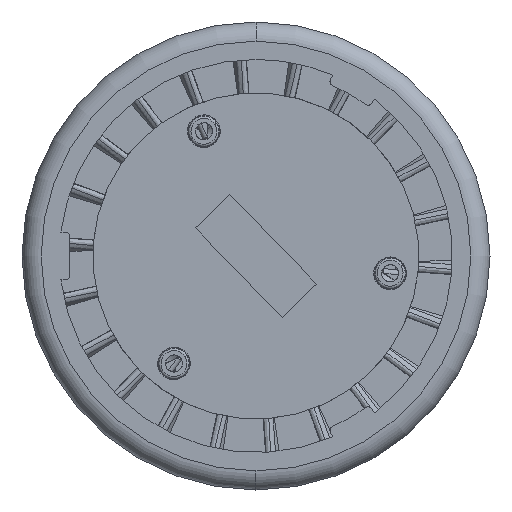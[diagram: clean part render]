
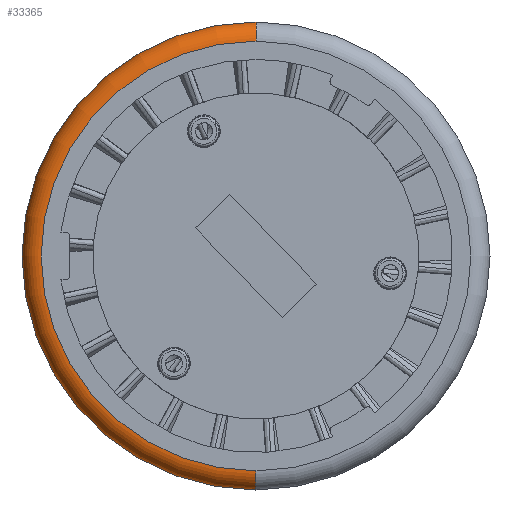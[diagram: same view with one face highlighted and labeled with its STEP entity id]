
A CAD part, front view. The second image highlights one B-rep face of the part: STEP entity #33365.
In plain terms, the highlighted toroidal (fillet/blend) face has major radius 22.399 mm and minor radius 2 mm.
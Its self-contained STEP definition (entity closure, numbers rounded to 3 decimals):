
#936 = DIRECTION ( 'NONE',  ( 0., 0., 1. ) ) ;
#1861 = EDGE_CURVE ( 'NONE', #31469, #49306, #31246, .T. ) ;
#2210 = FACE_OUTER_BOUND ( 'NONE', #67441, .T. ) ;
#3158 = DIRECTION ( 'NONE',  ( 0., 1., 0. ) ) ;
#3366 = CARTESIAN_POINT ( 'NONE',  ( 0., 136.8, -22.4 ) ) ;
#4134 = ORIENTED_EDGE ( 'NONE', *, *, #1861, .T. ) ;
#5961 = CIRCLE ( 'NONE', #46162, 24.4 ) ;
#6056 = DIRECTION ( 'NONE',  ( -0.006, 0., -1. ) ) ;
#11024 = CARTESIAN_POINT ( 'NONE',  ( 0., 136.8, 22.4 ) ) ;
#13004 = DIRECTION ( 'NONE',  ( 0., -1., 0. ) ) ;
#13605 = DIRECTION ( 'NONE',  ( 0., 0., -1. ) ) ;
#14937 = CARTESIAN_POINT ( 'NONE',  ( 0., 134.8, -22.4 ) ) ;
#16308 = AXIS2_PLACEMENT_3D ( 'NONE', #50971, #55284, #6056 ) ;
#17173 = CIRCLE ( 'NONE', #32111, 2. ) ;
#19292 = EDGE_CURVE ( 'NONE', #50543, #49306, #17173, .T. ) ;
#19824 = CARTESIAN_POINT ( 'NONE',  ( 0., 136.8, 0. ) ) ;
#27779 = CARTESIAN_POINT ( 'NONE',  ( 0., 136.8, -24.4 ) ) ;
#28319 = ORIENTED_EDGE ( 'NONE', *, *, #19292, .F. ) ;
#31246 = CIRCLE ( 'NONE', #16308, 22.4 ) ;
#31469 = VERTEX_POINT ( 'NONE', #14937 ) ;
#32111 = AXIS2_PLACEMENT_3D ( 'NONE', #11024, #66344, #936 ) ;
#32170 = ORIENTED_EDGE ( 'NONE', *, *, #51038, .F. ) ;
#33365 = ADVANCED_FACE ( 'NONE', ( #2210 ), #41883, .T. ) ;
#35400 = DIRECTION ( 'NONE',  ( -1., 0., 0. ) ) ;
#41133 = DIRECTION ( 'NONE',  ( 0., 0., -1. ) ) ;
#41883 = TOROIDAL_SURFACE ( 'NONE', #56609, 22.4, 2. ) ;
#46162 = AXIS2_PLACEMENT_3D ( 'NONE', #68565, #3158, #13605 ) ;
#47112 = DIRECTION ( 'NONE',  ( 0.006, 0., 1. ) ) ;
#49306 = VERTEX_POINT ( 'NONE', #58610 ) ;
#50543 = VERTEX_POINT ( 'NONE', #52101 ) ;
#50971 = CARTESIAN_POINT ( 'NONE',  ( 0., 134.8, 0. ) ) ;
#51038 = EDGE_CURVE ( 'NONE', #70163, #50543, #5961, .T. ) ;
#52101 = CARTESIAN_POINT ( 'NONE',  ( 0., 136.8, 24.4 ) ) ;
#53875 = EDGE_CURVE ( 'NONE', #70163, #31469, #57842, .T. ) ;
#55284 = DIRECTION ( 'NONE',  ( 0., 1., 0. ) ) ;
#56609 = AXIS2_PLACEMENT_3D ( 'NONE', #19824, #13004, #47112 ) ;
#56644 = ORIENTED_EDGE ( 'NONE', *, *, #53875, .T. ) ;
#57842 = CIRCLE ( 'NONE', #67009, 2. ) ;
#58610 = CARTESIAN_POINT ( 'NONE',  ( 0., 134.8, 22.4 ) ) ;
#66344 = DIRECTION ( 'NONE',  ( 1., 0., 0. ) ) ;
#67009 = AXIS2_PLACEMENT_3D ( 'NONE', #3366, #35400, #41133 ) ;
#67441 = EDGE_LOOP ( 'NONE', ( #28319, #32170, #56644, #4134 ) ) ;
#68565 = CARTESIAN_POINT ( 'NONE',  ( 0., 136.8, 0. ) ) ;
#70163 = VERTEX_POINT ( 'NONE', #27779 ) ;
